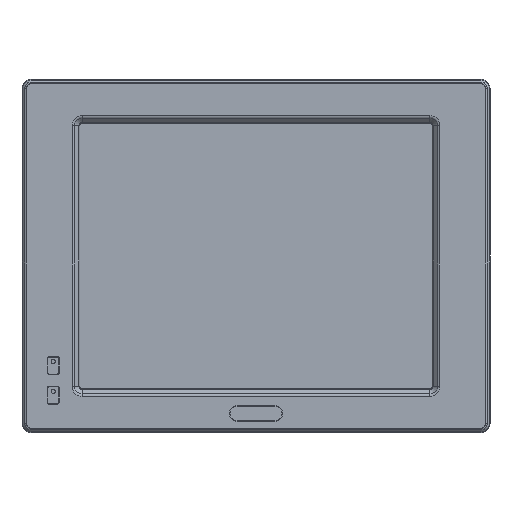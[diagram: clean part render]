
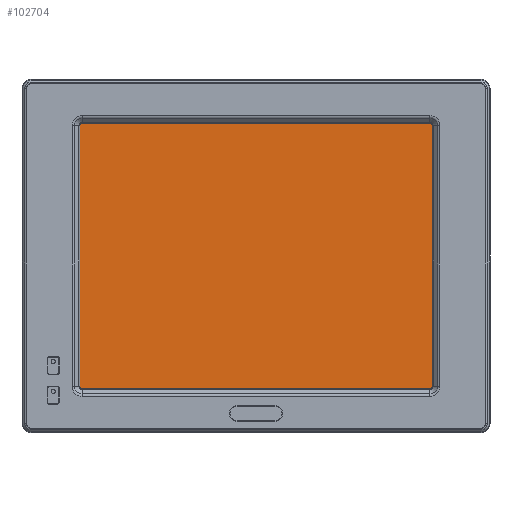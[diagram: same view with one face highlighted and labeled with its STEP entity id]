
A CAD part, top view. The second image highlights one B-rep face of the part: STEP entity #102704.
In plain terms, the highlighted planar face has unit normal (0, 0, -1).
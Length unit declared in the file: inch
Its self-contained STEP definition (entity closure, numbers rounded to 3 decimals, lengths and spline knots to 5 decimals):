
#2214 = VERTEX_POINT ( 'NONE', #38637 ) ;
#3436 = LINE ( 'NONE', #59242, #19542 ) ;
#7097 = VECTOR ( 'NONE', #45541, 39.37008 ) ;
#13936 = ORIENTED_EDGE ( 'NONE', *, *, #142831, .T. ) ;
#18074 = CARTESIAN_POINT ( 'NONE',  ( -6.71024, 4.89921, 0.75 ) ) ;
#19542 = VECTOR ( 'NONE', #114997, 39.37008 ) ;
#19736 = DIRECTION ( 'NONE',  ( 0., 0., -1. ) ) ;
#21168 = EDGE_CURVE ( 'NONE', #2214, #62729, #3436, .T. ) ;
#23671 = EDGE_CURVE ( 'NONE', #81286, #128926, #67722, .T. ) ;
#31872 = CARTESIAN_POINT ( 'NONE',  ( 6.39488, 4.89921, 0.75 ) ) ;
#38637 = CARTESIAN_POINT ( 'NONE',  ( 6.39488, -4.89882, 0.75 ) ) ;
#45541 = DIRECTION ( 'NONE',  ( 0., -1., 0. ) ) ;
#49311 = AXIS2_PLACEMENT_3D ( 'NONE', #145055, #19736, #75541 ) ;
#59242 = CARTESIAN_POINT ( 'NONE',  ( 0.03661, -4.89882, 0.75 ) ) ;
#62729 = VERTEX_POINT ( 'NONE', #176864 ) ;
#65018 = LINE ( 'NONE', #120774, #111671 ) ;
#67722 = LINE ( 'NONE', #123457, #178063 ) ;
#73732 = FACE_OUTER_BOUND ( 'NONE', #138352, .T. ) ;
#75541 = DIRECTION ( 'NONE',  ( 1., 0., 0. ) ) ;
#81286 = VERTEX_POINT ( 'NONE', #18074 ) ;
#96751 = ORIENTED_EDGE ( 'NONE', *, *, #23671, .T. ) ;
#102704 = ADVANCED_FACE ( 'NONE', ( #73732 ), #129487, .T. ) ;
#111671 = VECTOR ( 'NONE', #176709, 39.37008 ) ;
#114959 = LINE ( 'NONE', #170883, #7097 ) ;
#114997 = DIRECTION ( 'NONE',  ( -1., 0., 0. ) ) ;
#120774 = CARTESIAN_POINT ( 'NONE',  ( -6.71024, -0.09567, 0.75 ) ) ;
#122886 = ORIENTED_EDGE ( 'NONE', *, *, #123324, .T. ) ;
#123324 = EDGE_CURVE ( 'NONE', #128926, #2214, #114959, .T. ) ;
#123457 = CARTESIAN_POINT ( 'NONE',  ( 0.03661, 4.89921, 0.75 ) ) ;
#128926 = VERTEX_POINT ( 'NONE', #31872 ) ;
#129487 = PLANE ( 'NONE',  #49311 ) ;
#133581 = ORIENTED_EDGE ( 'NONE', *, *, #21168, .T. ) ;
#138352 = EDGE_LOOP ( 'NONE', ( #122886, #133581, #13936, #96751 ) ) ;
#142831 = EDGE_CURVE ( 'NONE', #62729, #81286, #65018, .T. ) ;
#145055 = CARTESIAN_POINT ( 'NONE',  ( 0.03661, -0.09567, 0.75 ) ) ;
#170883 = CARTESIAN_POINT ( 'NONE',  ( 6.39488, -0.09567, 0.75 ) ) ;
#176709 = DIRECTION ( 'NONE',  ( 0., 1., 0. ) ) ;
#176864 = CARTESIAN_POINT ( 'NONE',  ( -6.71024, -4.89882, 0.75 ) ) ;
#178063 = VECTOR ( 'NONE', #179389, 39.37008 ) ;
#179389 = DIRECTION ( 'NONE',  ( 1., 0., 0. ) ) ;
